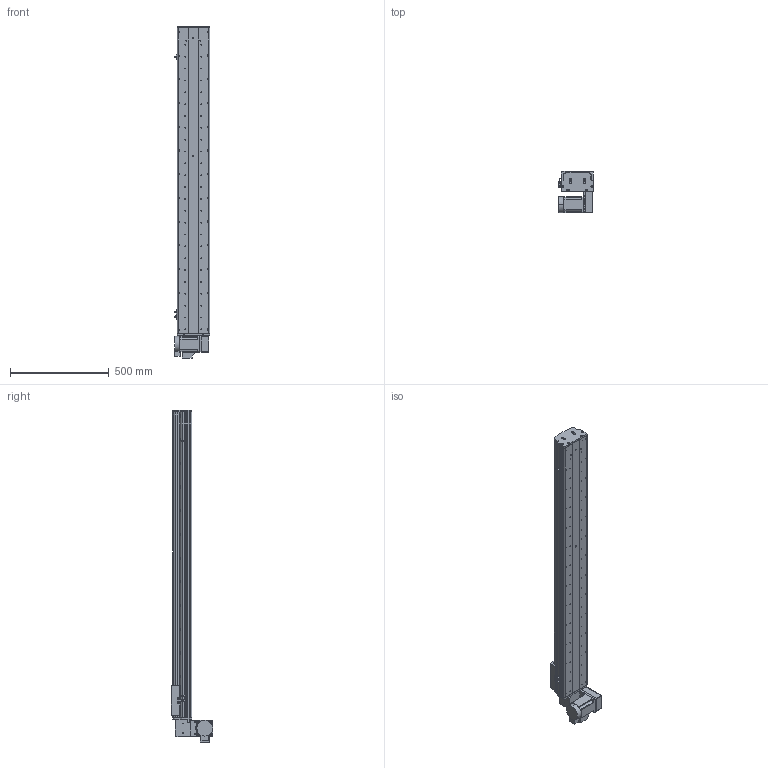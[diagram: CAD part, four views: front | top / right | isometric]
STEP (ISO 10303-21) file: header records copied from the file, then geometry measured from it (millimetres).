
FILE_DESCRIPTION (( 'STEP AP214' ), '1' );
FILE_NAME ('KSD165B-S1300-MRD-CM.STEP', '2017-10-17T00:43:40', ( '微软用户' ), ( '微软中国' ), 'SwSTEP 2.0', 'SolidWorks 2014', '' );
FILE_SCHEMA (( 'AUTOMOTIVE_DESIGN' ));
Length unit declared in the file: millimetre
Products named in the file (17): KSD165模组-同步带防尘盖1-1300行程; KSD165模组同步带底板-1300行程; 拸秶雄ん750W侜督萇儂; 165宽马达安装板同步带右; U倰嫖萇假蚾璃; U倰嫖萇EEㄜSX672; 覜茼え68遵圉猾敕; KSD165模组-同步带-防撞垫2; KSD165模组同步带-防撞垫1; KSD165耀郪-ヶ傷啣1-肮祭湍; KSD165模组-后端板1-同步带; KSD165模组-同步带滑动座-最新版; KSD165B-S1300-MRD-CM; 130宽模组马达安装板连板上下折丝杆同步带; 130宽模组保护罩上下左右折-同步带; HTPA26S5M250-A-H8 750W萇儂蚚; HTPA26S5M250-A-H8 400W萇儂蚚 
Assembly tree (20 placements, depth 2):
  KSD165B-S1300-MRD-CM
    KSD165模组-同步带滑动座-最新版
    KSD165模组-后端板1-同步带
    KSD165耀郪-ヶ傷啣1-肮祭湍
    KSD165模组同步带-防撞垫1
    KSD165模组-同步带-防撞垫2
    覜茼え68遵圉猾敕
    U倰嫖萇EEㄜSX672  x3
    U倰嫖萇假蚾璃  x3
    165宽马达安装板同步带右
    拸秶雄ん750W侜督萇儂
    KSD165模组同步带底板-1300行程
    KSD165模组-同步带防尘盖1-1300行程
    HTPA26S5M250-A-H8 400W萇儂蚚 
    HTPA26S5M250-A-H8 750W萇儂蚚
    130宽模组保护罩上下左右折-同步带
    130宽模组马达安装板连板上下折丝杆同步带
Bounding box: 178.7 x 210 x 1680.5 mm (x, y, z)
Volume: 9273001.1 mm3; surface area: 2158361.6 mm2
Topology: 21 solids, 21 shells, 2015 faces, 5700 edges, 3724 vertices
Faces by surface type: cylinder 1311, plane 592, cone 112
Entity records: 66004 total; most frequent: CARTESIAN_POINT 13516, DIRECTION 10800, ORIENTED_EDGE 10060, EDGE_CURVE 5030, AXIS2_PLACEMENT_3D 4246, VERTEX_POINT 3316, CIRCLE 2428, LINE 2308
